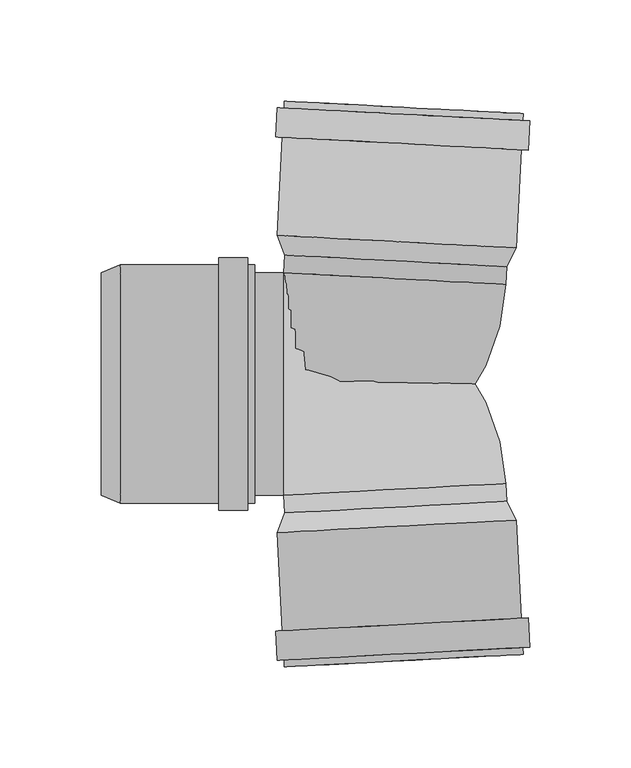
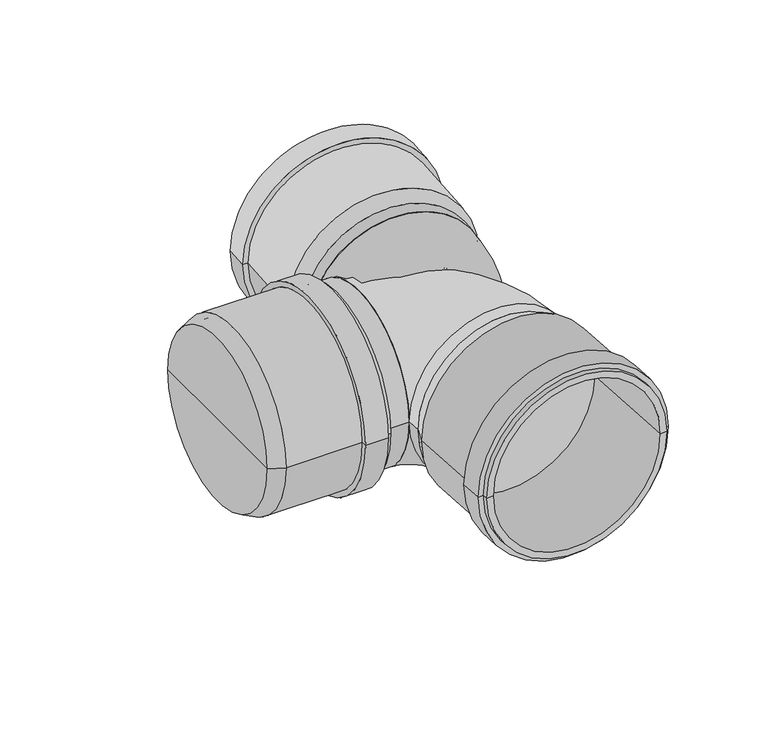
"""IFC4 building model written with IfcOpenShell, lengths in millimetres: pipe fitting geometry, pf_HTDB : pf_HTDB."""

from ifc_helpers import new_model, si_unit, point, frame, origin, origin_2d, place, context, project, spatial, polyline, circle_curve, ellipse_curve, trimmed, segment, composite_curve, outline, extrude, source, transform, mapped, element, save
from ifc_brep_helpers import plane_surface, cylinder_surface, revolved_surface, advanced_brep


def pipe_fitting_c43976f1(model_context):
    return source(origin(), model_context, "Body", "SolidModel", [
        advanced_brep(
        [(58.1171177, -58.037924, 0.0), (62.7086904, -67.3103272, 0.0), (-55.3293206, -73.4964372, 0.0), (-51.7321311, -63.7948792, 0.0), (3.1924933, -60.9164016, 0.0), (66.1890315, -133.7191912, 0.0), (62.0946504, -133.9337687, 0.0), (-47.7545984, -139.6907239, 0.0), (-51.8489795, -139.9053013, 0.0), (66.0110893, -130.3238508, 0.0), (-52.0269217, -136.5099609, 0.0), (69.4064297, -130.1459086, 0.0), (-55.4222622, -136.6879031, 0.0), (68.6475583, -115.6657803, 0.0), (-56.1811335, -122.2077749, 0.0), (65.2522179, -115.8437226, 0.0), (-52.7857931, -122.0298326, 0.0), (58.6143093, -67.5249046, 0.0), (3.6896849, -70.4033822, 0.0), (-51.2349395, -73.2818598, 0.0)],
        [
            (0, 1),
            (1, 2, circle_curve(frame((3.6896849, -70.4033822, 0.0), z_axis=(-0.05233595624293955, 0.9986295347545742, 0.0), x_axis=(-0.9986295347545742, -0.05233595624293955, 0.0)), 59.1)),
            (2, 3),
            (3, 0, circle_curve(frame((3.1924933, -60.9164016, 0.0), z_axis=(0.05233595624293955, -0.9986295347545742, 0.0), x_axis=(-0.9986295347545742, -0.05233595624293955, 0.0)), 55.0)),
            (2, 1, circle_curve(frame((3.6896849, -70.4033822, 0.0), z_axis=(-0.05233595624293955, 0.9986295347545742, 0.0), x_axis=(-0.9986295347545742, -0.05233595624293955, 0.0)), 59.1)),
            (0, 3, circle_curve(frame((3.1924933, -60.9164016, 0.0), z_axis=(0.05233595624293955, -0.9986295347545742, 0.0), x_axis=(-0.9986295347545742, -0.05233595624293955, 0.0)), 55.0)),
            (4, 0),
            (3, 4),
            (5, 6),
            (6, 7, circle_curve(frame((7.170026, -136.8122463, 0.0), z_axis=(-0.05233595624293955, 0.9986295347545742, 0.0), x_axis=(-0.9986295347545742, -0.05233595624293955, 0.0)), 55.0)),
            (7, 8),
            (8, 5, circle_curve(frame((7.170026, -136.8122463, 0.0), z_axis=(0.05233595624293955, -0.9986295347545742, 0.0), x_axis=(-0.9986295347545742, -0.05233595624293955, 0.0)), 59.1)),
            (7, 6, circle_curve(frame((7.170026, -136.8122463, 0.0), z_axis=(-0.05233595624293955, 0.9986295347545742, 0.0), x_axis=(-0.9986295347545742, -0.05233595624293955, 0.0)), 55.0)),
            (5, 8, circle_curve(frame((7.170026, -136.8122463, 0.0), z_axis=(0.05233595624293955, -0.9986295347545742, 0.0), x_axis=(-0.9986295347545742, -0.05233595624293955, 0.0)), 59.1)),
            (9, 5),
            (8, 10),
            (10, 9, circle_curve(frame((6.9920838, -133.4169058, 0.0), z_axis=(0.05233595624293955, -0.9986295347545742, 0.0), x_axis=(-0.9986295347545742, -0.05233595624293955, 0.0)), 59.1)),
            (9, 10, circle_curve(frame((6.9920838, -133.4169058, 0.0), z_axis=(0.05233595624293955, -0.9986295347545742, 0.0), x_axis=(-0.9986295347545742, -0.05233595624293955, 0.0)), 59.1)),
            (11, 9),
            (10, 12),
            (12, 11, circle_curve(frame((6.9920838, -133.4169058, 0.0), z_axis=(0.05233595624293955, -0.9986295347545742, 0.0), x_axis=(-0.9986295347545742, -0.05233595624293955, 0.0)), 62.5)),
            (11, 12, circle_curve(frame((6.9920838, -133.4169058, 0.0), z_axis=(0.05233595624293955, -0.9986295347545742, 0.0), x_axis=(-0.9986295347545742, -0.05233595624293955, 0.0)), 62.5)),
            (13, 11),
            (12, 14),
            (14, 13, circle_curve(frame((6.2332124, -118.9367776, 0.0), z_axis=(0.05233595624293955, -0.9986295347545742, 0.0), x_axis=(-0.9986295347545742, -0.05233595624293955, 0.0)), 62.5)),
            (13, 14, circle_curve(frame((6.2332124, -118.9367776, 0.0), z_axis=(0.05233595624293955, -0.9986295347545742, 0.0), x_axis=(-0.9986295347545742, -0.05233595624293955, 0.0)), 62.5)),
            (15, 13),
            (14, 16),
            (16, 15, circle_curve(frame((6.2332124, -118.9367776, 0.0), z_axis=(0.05233595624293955, -0.9986295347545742, 0.0), x_axis=(-0.9986295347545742, -0.05233595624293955, 0.0)), 59.1)),
            (15, 16, circle_curve(frame((6.2332124, -118.9367776, 0.0), z_axis=(0.05233595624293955, -0.9986295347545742, 0.0), x_axis=(-0.9986295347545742, -0.05233595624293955, 0.0)), 59.1)),
            (1, 15),
            (16, 2),
            (17, 18),
            (18, 19),
            (19, 17, circle_curve(frame((3.6896849, -70.4033822, 0.0), z_axis=(0.05233595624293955, -0.9986295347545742, 0.0), x_axis=(-0.9986295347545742, -0.05233595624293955, 0.0)), 55.0)),
            (17, 19, circle_curve(frame((3.6896849, -70.4033822, 0.0), z_axis=(0.05233595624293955, -0.9986295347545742, 0.0), x_axis=(-0.9986295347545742, -0.05233595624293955, 0.0)), 55.0)),
            (6, 17),
            (19, 7),
        ],
        [
            revolved_surface(polyline([(-55.3293206, -73.4964372, 0.0), (-51.7321311, -63.7948792, 0.0)]), (3.1924933, -60.9164016, 0.0), (-0.05233595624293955, 0.9986295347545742, 0.0)),
            plane_surface(frame((3.1924933, -60.9164016, 0.0), z_axis=(-0.05233595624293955, 0.9986295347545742, 0.0), x_axis=(-0.9986295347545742, -0.05233595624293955, 0.0))),
            plane_surface(frame((7.170026, -136.8122463, 0.0), z_axis=(0.05233595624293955, -0.9986295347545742, 0.0), x_axis=(-0.9986295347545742, -0.05233595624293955, 0.0))),
            cylinder_surface(frame((3.1924933, -60.9164016, 0.0), z_axis=(-0.05233595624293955, 0.9986295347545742, 0.0), x_axis=(-0.9986295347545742, -0.05233595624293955, 0.0)), 59.1),
            plane_surface(frame((6.9920838, -133.4169058, 0.0), z_axis=(0.05233595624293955, -0.9986295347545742, 0.0), x_axis=(-0.9986295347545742, -0.05233595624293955, 0.0))),
            cylinder_surface(frame((3.1924933, -60.9164016, 0.0), z_axis=(-0.05233595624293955, 0.9986295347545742, 0.0), x_axis=(-0.9986295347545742, -0.05233595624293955, 0.0)), 62.5),
            plane_surface(frame((6.2332124, -118.9367776, 0.0), z_axis=(-0.05233595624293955, 0.9986295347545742, 0.0), x_axis=(-0.9986295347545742, -0.05233595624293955, 0.0))),
            plane_surface(frame((3.6896849, -70.4033822, 0.0), z_axis=(0.05233595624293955, -0.9986295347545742, 0.0), x_axis=(-0.9986295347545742, -0.05233595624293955, 0.0))),
            revolved_surface(polyline([(-51.234939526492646, -73.28185978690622, 0.0), (-47.75459843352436, -139.69072390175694, 0.0)]), (3.1924933, -60.9164016, 0.0), (-0.05233595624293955, 0.9986295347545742, 0.0)),
        ],
        [
            (0, [[1, 2, 3, 4]]),
            (0, [[-3, 5, -1, 6]]),
            (1, [[7, -4, 8]]),
            (1, [[-8, -6, -7]]),
            (2, [[9, 10, 11, 12]]),
            (2, [[-11, 13, -9, 14]]),
            (3, [[15, -12, 16, 17]]),
            (3, [[-16, -14, -15, 18]]),
            (4, [[19, -17, 20, 21]]),
            (4, [[-20, -18, -19, 22]]),
            (5, [[23, -21, 24, 25]]),
            (5, [[-24, -22, -23, 26]]),
            (6, [[27, -25, 28, 29]]),
            (6, [[-28, -26, -27, 30]]),
            (3, [[31, -29, 32, -2]]),
            (3, [[-32, -30, -31, -5]]),
            (7, [[33, 34, 35]]),
            (7, [[-34, -33, 36]]),
            (8, [[37, -35, 38, -10]]),
            (8, [[-38, -36, -37, -13]]),
        ],
    ),
        advanced_brep(
        [(58.1171177, 58.037924, 0.0), (-51.7321311, 63.7948792, 0.0), (-55.3293206, 73.4964372, 0.0), (62.7086904, 67.3103272, 0.0), (3.1924933, 60.9164016, 0.0), (66.1890315, 133.7191912, 0.0), (-51.8489795, 139.9053013, 0.0), (-47.7545984, 139.6907239, 0.0), (62.0946504, 133.9337687, 0.0), (66.0110893, 130.3238508, 0.0), (-52.0269217, 136.5099609, 0.0), (69.4064297, 130.1459086, 0.0), (-55.4222622, 136.6879031, 0.0), (68.6475583, 115.6657803, 0.0), (-56.1811335, 122.2077749, 0.0), (65.2522179, 115.8437226, 0.0), (-52.7857931, 122.0298326, 0.0), (58.6143093, 67.5249046, 0.0), (-51.2349395, 73.2818598, 0.0), (3.6896849, 70.4033822, 0.0)],
        [
            (0, 1, circle_curve(frame((3.1924933, 60.9164016, 0.0), z_axis=(0.05233595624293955, 0.9986295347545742, 0.0), x_axis=(-0.9986295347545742, 0.05233595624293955, 0.0)), 55.0)),
            (1, 2),
            (2, 3, circle_curve(frame((3.6896849, 70.4033822, 0.0), z_axis=(-0.05233595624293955, -0.9986295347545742, 0.0), x_axis=(-0.9986295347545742, 0.05233595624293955, 0.0)), 59.1)),
            (3, 0),
            (1, 0, circle_curve(frame((3.1924933, 60.9164016, 0.0), z_axis=(0.05233595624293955, 0.9986295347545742, 0.0), x_axis=(-0.9986295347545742, 0.05233595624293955, 0.0)), 55.0)),
            (3, 2, circle_curve(frame((3.6896849, 70.4033822, 0.0), z_axis=(-0.05233595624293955, -0.9986295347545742, 0.0), x_axis=(-0.9986295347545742, 0.05233595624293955, 0.0)), 59.1)),
            (4, 1),
            (0, 4),
            (5, 6, circle_curve(frame((7.170026, 136.8122463, 0.0), z_axis=(0.05233595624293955, 0.9986295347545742, 0.0), x_axis=(-0.9986295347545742, 0.05233595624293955, 0.0)), 59.1)),
            (6, 7),
            (7, 8, circle_curve(frame((7.170026, 136.8122463, 0.0), z_axis=(-0.05233595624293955, -0.9986295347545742, 0.0), x_axis=(-0.9986295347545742, 0.05233595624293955, 0.0)), 55.0)),
            (8, 5),
            (6, 5, circle_curve(frame((7.170026, 136.8122463, 0.0), z_axis=(0.05233595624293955, 0.9986295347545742, 0.0), x_axis=(-0.9986295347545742, 0.05233595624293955, 0.0)), 59.1)),
            (8, 7, circle_curve(frame((7.170026, 136.8122463, 0.0), z_axis=(-0.05233595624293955, -0.9986295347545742, 0.0), x_axis=(-0.9986295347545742, 0.05233595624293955, 0.0)), 55.0)),
            (9, 10, circle_curve(frame((6.9920838, 133.4169058, 0.0), z_axis=(0.05233595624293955, 0.9986295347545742, 0.0), x_axis=(-0.9986295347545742, 0.05233595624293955, 0.0)), 59.1)),
            (10, 6),
            (5, 9),
            (10, 9, circle_curve(frame((6.9920838, 133.4169058, 0.0), z_axis=(0.05233595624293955, 0.9986295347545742, 0.0), x_axis=(-0.9986295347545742, 0.05233595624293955, 0.0)), 59.1)),
            (11, 12, circle_curve(frame((6.9920838, 133.4169058, 0.0), z_axis=(0.05233595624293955, 0.9986295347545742, 0.0), x_axis=(-0.9986295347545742, 0.05233595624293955, 0.0)), 62.5)),
            (12, 10),
            (9, 11),
            (12, 11, circle_curve(frame((6.9920838, 133.4169058, 0.0), z_axis=(0.05233595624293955, 0.9986295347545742, 0.0), x_axis=(-0.9986295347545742, 0.05233595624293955, 0.0)), 62.5)),
            (13, 14, circle_curve(frame((6.2332124, 118.9367776, 0.0), z_axis=(0.05233595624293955, 0.9986295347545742, 0.0), x_axis=(-0.9986295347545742, 0.05233595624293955, 0.0)), 62.5)),
            (14, 12),
            (11, 13),
            (14, 13, circle_curve(frame((6.2332124, 118.9367776, 0.0), z_axis=(0.05233595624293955, 0.9986295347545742, 0.0), x_axis=(-0.9986295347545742, 0.05233595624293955, 0.0)), 62.5)),
            (15, 16, circle_curve(frame((6.2332124, 118.9367776, 0.0), z_axis=(0.05233595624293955, 0.9986295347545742, 0.0), x_axis=(-0.9986295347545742, 0.05233595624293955, 0.0)), 59.1)),
            (16, 14),
            (13, 15),
            (16, 15, circle_curve(frame((6.2332124, 118.9367776, 0.0), z_axis=(0.05233595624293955, 0.9986295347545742, 0.0), x_axis=(-0.9986295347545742, 0.05233595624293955, 0.0)), 59.1)),
            (2, 16),
            (15, 3),
            (17, 18, circle_curve(frame((3.6896849, 70.4033822, 0.0), z_axis=(0.05233595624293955, 0.9986295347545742, 0.0), x_axis=(-0.9986295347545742, 0.05233595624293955, 0.0)), 55.0)),
            (18, 19),
            (19, 17),
            (18, 17, circle_curve(frame((3.6896849, 70.4033822, 0.0), z_axis=(0.05233595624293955, 0.9986295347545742, 0.0), x_axis=(-0.9986295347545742, 0.05233595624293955, 0.0)), 55.0)),
            (7, 18),
            (17, 8),
        ],
        [
            revolved_surface(polyline([(-55.3293206, 73.4964372, 0.0), (-51.7321311, 63.7948792, 0.0)]), (3.1924933, 60.9164016, 0.0), (-0.05233595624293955, -0.9986295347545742, 0.0)),
            plane_surface(frame((3.1924933, 60.9164016, 0.0), z_axis=(-0.05233595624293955, -0.9986295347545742, 0.0), x_axis=(-0.9986295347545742, 0.05233595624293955, 0.0))),
            plane_surface(frame((7.170026, 136.8122463, 0.0), z_axis=(0.05233595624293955, 0.9986295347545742, 0.0), x_axis=(-0.9986295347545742, 0.05233595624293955, 0.0))),
            cylinder_surface(frame((3.1924933, 60.9164016, 0.0), z_axis=(-0.05233595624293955, -0.9986295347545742, 0.0), x_axis=(-0.9986295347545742, 0.05233595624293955, 0.0)), 59.1),
            plane_surface(frame((6.9920838, 133.4169058, 0.0), z_axis=(0.05233595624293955, 0.9986295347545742, 0.0), x_axis=(-0.9986295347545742, 0.05233595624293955, 0.0))),
            cylinder_surface(frame((3.1924933, 60.9164016, 0.0), z_axis=(-0.05233595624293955, -0.9986295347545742, 0.0), x_axis=(-0.9986295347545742, 0.05233595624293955, 0.0)), 62.5),
            plane_surface(frame((6.2332124, 118.9367776, 0.0), z_axis=(-0.05233595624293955, -0.9986295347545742, 0.0), x_axis=(-0.9986295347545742, 0.05233595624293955, 0.0))),
            plane_surface(frame((3.6896849, 70.4033822, 0.0), z_axis=(0.05233595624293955, 0.9986295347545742, 0.0), x_axis=(-0.9986295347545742, 0.05233595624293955, 0.0))),
            revolved_surface(polyline([(-51.234939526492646, 73.28185978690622, 0.0), (-47.75459843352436, 139.69072390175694, 0.0)]), (3.1924933, 60.9164016, 0.0), (-0.05233595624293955, -0.9986295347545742, 0.0)),
        ],
        [
            (0, [[1, 2, 3, 4]]),
            (0, [[5, -4, 6, -2]]),
            (1, [[7, -1, 8]]),
            (1, [[-8, -5, -7]]),
            (2, [[9, 10, 11, 12]]),
            (2, [[13, -12, 14, -10]]),
            (3, [[15, 16, -9, 17]]),
            (3, [[18, -17, -13, -16]]),
            (4, [[19, 20, -15, 21]]),
            (4, [[22, -21, -18, -20]]),
            (5, [[23, 24, -19, 25]]),
            (5, [[26, -25, -22, -24]]),
            (6, [[27, 28, -23, 29]]),
            (6, [[30, -29, -26, -28]]),
            (3, [[-3, 31, -27, 32]]),
            (3, [[-6, -32, -30, -31]]),
            (7, [[33, 34, 35]]),
            (7, [[36, -35, -34]]),
            (8, [[-11, 37, -33, 38]]),
            (8, [[-14, -38, -36, -37]]),
        ],
    ),
        advanced_brep(
        [(-142.5, -55.0, 0.0), (-142.5, 55.0, 0.0), (-133.0, 59.1, 0.0), (-133.0, -59.1, 0.0), (-142.5, 0.0, 0.0), (-66.5, -59.1, 0.0), (-66.5, 59.1, 0.0), (-66.5, 55.0, 0.0), (-66.5, -55.0, 0.0), (-69.9, -59.1, 0.0), (-69.9, 59.1, 0.0), (-69.9, -62.5, 0.0), (-69.9, 62.5, 0.0), (-84.4, -62.5, 0.0), (-84.4, 62.5, 0.0), (-84.4, -59.1, 0.0), (-84.4, 59.1, 0.0), (-133.0, -55.0, 0.0), (-133.0, 55.0, 0.0), (-133.0, 0.0, 0.0)],
        [
            (0, 1, circle_curve(frame((-142.5, 0.0, 0.0), z_axis=(1.0, 0.0, 0.0), x_axis=(0.0, 1.0, 0.0)), 55.0)),
            (1, 2),
            (2, 3, circle_curve(frame((-133.0, 0.0, 0.0), z_axis=(-1.0, 0.0, 0.0), x_axis=(0.0, 1.0, 0.0)), 59.1)),
            (3, 0),
            (1, 0, circle_curve(frame((-142.5, 0.0, 0.0), z_axis=(1.0, 0.0, 0.0), x_axis=(0.0, 1.0, 0.0)), 55.0)),
            (3, 2, circle_curve(frame((-133.0, 0.0, 0.0), z_axis=(-1.0, 0.0, 0.0), x_axis=(0.0, 1.0, 0.0)), 59.1)),
            (4, 1),
            (0, 4),
            (5, 6, circle_curve(frame((-66.5, 0.0, 0.0), z_axis=(1.0, 0.0, 0.0), x_axis=(0.0, 1.0, 0.0)), 59.1)),
            (6, 7),
            (7, 8, circle_curve(frame((-66.5, 0.0, 0.0), z_axis=(-1.0, 0.0, 0.0), x_axis=(0.0, 1.0, 0.0)), 55.0)),
            (8, 5),
            (6, 5, circle_curve(frame((-66.5, 0.0, 0.0), z_axis=(1.0, 0.0, 0.0), x_axis=(0.0, 1.0, 0.0)), 59.1)),
            (8, 7, circle_curve(frame((-66.5, 0.0, 0.0), z_axis=(-1.0, 0.0, 0.0), x_axis=(0.0, 1.0, 0.0)), 55.0)),
            (9, 10, circle_curve(frame((-69.9, 0.0, 0.0), z_axis=(1.0, 0.0, 0.0), x_axis=(0.0, 1.0, 0.0)), 59.1)),
            (10, 6),
            (5, 9),
            (10, 9, circle_curve(frame((-69.9, 0.0, 0.0), z_axis=(1.0, 0.0, 0.0), x_axis=(0.0, 1.0, 0.0)), 59.1)),
            (11, 12, circle_curve(frame((-69.9, 0.0, 0.0), z_axis=(1.0, 0.0, 0.0), x_axis=(0.0, 1.0, 0.0)), 62.5)),
            (12, 10),
            (9, 11),
            (12, 11, circle_curve(frame((-69.9, 0.0, 0.0), z_axis=(1.0, 0.0, 0.0), x_axis=(0.0, 1.0, 0.0)), 62.5)),
            (13, 14, circle_curve(frame((-84.4, 0.0, 0.0), z_axis=(1.0, 0.0, 0.0), x_axis=(0.0, 1.0, 0.0)), 62.5)),
            (14, 12),
            (11, 13),
            (14, 13, circle_curve(frame((-84.4, 0.0, 0.0), z_axis=(1.0, 0.0, 0.0), x_axis=(0.0, 1.0, 0.0)), 62.5)),
            (15, 16, circle_curve(frame((-84.4, 0.0, 0.0), z_axis=(1.0, 0.0, 0.0), x_axis=(0.0, 1.0, 0.0)), 59.1)),
            (16, 14),
            (13, 15),
            (16, 15, circle_curve(frame((-84.4, 0.0, 0.0), z_axis=(1.0, 0.0, 0.0), x_axis=(0.0, 1.0, 0.0)), 59.1)),
            (2, 16),
            (15, 3),
            (17, 18, circle_curve(frame((-133.0, 0.0, 0.0), z_axis=(1.0, 0.0, 0.0), x_axis=(0.0, 1.0, 0.0)), 55.0)),
            (18, 19),
            (19, 17),
            (18, 17, circle_curve(frame((-133.0, 0.0, 0.0), z_axis=(1.0, 0.0, 0.0), x_axis=(0.0, 1.0, 0.0)), 55.0)),
            (7, 18),
            (17, 8),
        ],
        [
            revolved_surface(polyline([(-133.0, 59.1, 0.0), (-142.5, 55.0, 0.0)]), (-142.5, 0.0, 0.0), (-1.0, 0.0, 0.0)),
            plane_surface(frame((-142.5, 0.0, 0.0), z_axis=(-1.0, 0.0, 0.0), x_axis=(0.0, 1.0, 0.0))),
            plane_surface(frame((-66.5, 0.0, 0.0), z_axis=(1.0, 0.0, 0.0), x_axis=(0.0, 1.0, 0.0))),
            cylinder_surface(frame((-142.5, 0.0, 0.0), z_axis=(-1.0, 0.0, 0.0), x_axis=(0.0, 1.0, 0.0)), 59.1),
            plane_surface(frame((-69.9, 0.0, 0.0), z_axis=(1.0, 0.0, 0.0), x_axis=(0.0, 1.0, 0.0))),
            cylinder_surface(frame((-142.5, 0.0, 0.0), z_axis=(-1.0, 0.0, 0.0), x_axis=(0.0, 1.0, 0.0)), 62.5),
            plane_surface(frame((-84.4, 0.0, 0.0), z_axis=(-1.0, 0.0, 0.0), x_axis=(0.0, 1.0, 0.0))),
            plane_surface(frame((-133.0, 0.0, 0.0), z_axis=(1.0, 0.0, 0.0), x_axis=(0.0, 1.0, 0.0))),
            revolved_surface(polyline([(-133.0, 55.0, 0.0), (-66.5, 55.0, 0.0)]), (-142.5, 0.0, 0.0), (-1.0, 0.0, 0.0)),
        ],
        [
            (0, [[1, 2, 3, 4]]),
            (0, [[5, -4, 6, -2]]),
            (1, [[7, -1, 8]]),
            (1, [[-8, -5, -7]]),
            (2, [[9, 10, 11, 12]]),
            (2, [[13, -12, 14, -10]]),
            (3, [[15, 16, -9, 17]]),
            (3, [[18, -17, -13, -16]]),
            (4, [[19, 20, -15, 21]]),
            (4, [[22, -21, -18, -20]]),
            (5, [[23, 24, -19, 25]]),
            (5, [[26, -25, -22, -24]]),
            (6, [[27, 28, -23, 29]]),
            (6, [[30, -29, -26, -28]]),
            (3, [[-3, 31, -27, 32]]),
            (3, [[-6, -32, -30, -31]]),
            (7, [[33, 34, 35]]),
            (7, [[36, -35, -34]]),
            (8, [[-11, 37, -33, 38]]),
            (8, [[-14, -38, -36, -37]]),
        ],
    ),
        extrude(outline(composite_curve([segment(trimmed(circle_curve(origin_2d(), 55.0), [point((0.0, 55.0))], [point((0.0, -55.0))], False, "CARTESIAN"), True, "CONTINUOUS"), segment(trimmed(circle_curve(origin_2d(), 55.0), [point((0.0, -55.0))], [point((0.0, 55.0))], False, "CARTESIAN"), True, "CONTINUOUS")], self_intersect=False)), frame((3.1924933, -60.9164016, 0.0), z_axis=(-0.05233595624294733, 0.9986295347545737, 0.0), x_axis=(0.0, 0.0, 1.0)), (0.0, 0.0, 1.0), 8.8069488),
        advanced_brep(
        [(57.6561977, -49.2430448, 0.0), (-52.1930512, -55.0, 0.0), (-52.1930512, 55.0, 0.0)],
        [
            (0, 1, circle_curve(frame((2.7315732, -52.1215224, 0.0), z_axis=(0.052335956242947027, -0.9986295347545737, 0.0), x_axis=(-0.9986295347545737, -0.052335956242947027, 0.0)), 55.0)),
            (1, 0, circle_curve(frame((2.7315732, -52.1215224, 0.0), z_axis=(0.052335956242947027, -0.9986295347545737, 0.0), x_axis=(-0.9986295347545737, -0.052335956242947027, 0.0)), 55.0)),
            (2, 1, circle_curve(frame((-52.1930512, 0.0, 0.0), z_axis=(-1.0, 0.0, 0.0), x_axis=(0.0, -1.0, 0.0)), 55.0)),
            (1, 2, circle_curve(frame((-52.1930512, 0.0, 0.0), z_axis=(-1.0, 0.0, 0.0), x_axis=(0.0, -1.0, 0.0)), 55.0)),
            (2, 0, circle_curve(frame((-52.1930512, -55.0, 0.0), z_axis=(0.0, 0.0, -1.0), x_axis=(0.9986295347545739, 0.05233595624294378, 0.0)), 110.0)),
        ],
        [
            plane_surface(frame((-52.1930512, -55.0, -14.8), z_axis=(0.05233595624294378, -0.9986295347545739, 0.0), x_axis=(0.9986295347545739, 0.05233595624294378, 0.0))),
            plane_surface(frame((-52.1930512, -55.0, -14.8), z_axis=(-1.0, 0.0, 0.0), x_axis=(0.0, 1.0, 0.0))),
            revolved_surface(trimmed(ellipse_curve(frame((2.7315732, -52.1215224, 0.0), z_axis=(0.052335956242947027, -0.9986295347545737, 0.0), x_axis=(-0.9986295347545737, -0.052335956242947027, 0.0)), 55.0, 55.0), [point((-52.1930512, -55.0, 0.0))], [point((57.6561977, -49.2430448, 0.0))], True, "CARTESIAN"), (-52.1930512, -55.0, -14.8), (0.0, 0.0, 1.0)),
            revolved_surface(trimmed(ellipse_curve(frame((2.7315732, -52.1215224, 0.0), z_axis=(0.052335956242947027, -0.9986295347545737, 0.0), x_axis=(-0.9986295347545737, -0.052335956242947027, 0.0)), 55.0, 55.0), [point((57.6561977, -49.2430448, 0.0))], [point((-52.1930512, -55.0, 0.0))], True, "CARTESIAN"), (-52.1930512, -55.0, -14.8), (0.0, 0.0, 1.0)),
        ],
        [
            (0, [[1, 2]]),
            (1, [[3, 4]]),
            (2, [[5, -2, -3]]),
            (3, [[-1, -5, -4]]),
        ],
    ),
        extrude(outline(composite_curve([segment(trimmed(circle_curve(origin_2d(), 55.0), [point((0.0, -55.0))], [point((0.0, 55.0000001))], False, "CARTESIAN"), True, "CONTINUOUS"), segment(trimmed(circle_curve(origin_2d(), 55.0), [point((0.0, 55.0000001))], [point((0.0, -55.0))], False, "CARTESIAN"), True, "CONTINUOUS")], self_intersect=False)), frame((2.7315732, 52.1215224, 0.0), z_axis=(0.052335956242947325, 0.9986295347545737, 0.0), x_axis=(0.0, 0.0, 1.0)), (0.0, 0.0, 1.0), 8.8069488),
        extrude(outline(composite_curve([segment(trimmed(circle_curve(origin_2d(), 55.0), [point((-55.0, 0.0))], [point((55.0, 0.0))], False, "CARTESIAN"), True, "CONTINUOUS"), segment(trimmed(circle_curve(origin_2d(), 55.0), [point((55.0, 0.0))], [point((-55.0, 0.0))], False, "CARTESIAN"), True, "CONTINUOUS")], self_intersect=False)), frame((-66.5, 0.0, 0.0), z_axis=(1.0, 0.0, 0.0), x_axis=(0.0, 1.0, 0.0)), (0.0, 0.0, 1.0), 14.3069488),
        advanced_brep(
        [(57.6561977, 49.2430448, 0.0), (-52.1930512, 55.0, 0.0), (-52.1930512, -55.0, 0.0)],
        [
            (0, 1, circle_curve(frame((2.7315732, 52.1215224, 0.0), z_axis=(0.052335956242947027, 0.9986295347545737, 0.0), x_axis=(-0.9986295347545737, 0.052335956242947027, 0.0)), 55.0)),
            (1, 0, circle_curve(frame((2.7315732, 52.1215224, 0.0), z_axis=(0.052335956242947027, 0.9986295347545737, 0.0), x_axis=(-0.9986295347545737, 0.052335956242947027, 0.0)), 55.0)),
            (2, 1, circle_curve(frame((-52.1930512, 0.0, 0.0), z_axis=(-1.0, 0.0, 0.0), x_axis=(0.0, 1.0, 0.0)), 55.0)),
            (1, 2, circle_curve(frame((-52.1930512, 0.0, 0.0), z_axis=(-1.0, 0.0, 0.0), x_axis=(0.0, 1.0, 0.0)), 55.0)),
            (0, 2, circle_curve(frame((-52.1930512, 55.0, 0.0), z_axis=(0.0, 0.0, -1.0), x_axis=(0.9986295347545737, -0.052335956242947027, 0.0)), 110.0)),
        ],
        [
            plane_surface(frame((-52.1930512, 55.0, -14.8), z_axis=(0.052335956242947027, 0.9986295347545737, 0.0), x_axis=(0.9986295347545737, -0.052335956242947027, 0.0))),
            plane_surface(frame((-52.1930512, 55.0, -14.8), z_axis=(-1.0, 0.0, 0.0), x_axis=(0.0, -1.0, 0.0))),
            revolved_surface(trimmed(ellipse_curve(frame((2.7315732, 52.1215224, 0.0), z_axis=(0.052335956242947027, 0.9986295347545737, 0.0), x_axis=(-0.9986295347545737, 0.052335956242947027, 0.0)), 55.0, 55.0), [point((57.6561977, 49.2430448, 0.0))], [point((-52.1930512, 55.0, 0.0))], True, "CARTESIAN"), (-52.1930512, 55.0, -14.8), (0.0, 0.0, -1.0)),
            revolved_surface(trimmed(ellipse_curve(frame((2.7315732, 52.1215224, 0.0), z_axis=(0.052335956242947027, 0.9986295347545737, 0.0), x_axis=(-0.9986295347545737, 0.052335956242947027, 0.0)), 55.0, 55.0), [point((-52.1930512, 55.0, 0.0))], [point((57.6561977, 49.2430448, 0.0))], True, "CARTESIAN"), (-52.1930512, 55.0, -14.8), (0.0, 0.0, -1.0)),
        ],
        [
            (0, [[1, 2]]),
            (1, [[3, 4]]),
            (2, [[-1, 5, -4]]),
            (3, [[-5, -2, -3]]),
        ],
    ),
    ])


if __name__ == "__main__":
    model = new_model("IFC4")
    model_context = context("Model", 3, world=origin())
    ifc_project = project(units=[si_unit("LENGTHUNIT", "METRE", prefix="MILLI")], contexts=[model_context])
    site = spatial("IfcSite", under=ifc_project)
    building = spatial("IfcBuilding", under=site)
    placement = place(None, origin())
    pipe_fitting_shape = pipe_fitting_c43976f1(model_context)
    element("IfcPipeFitting", 1, ObjectType="pf_HTDB : pf_HTDB", at=placement, inside=building, context=model_context, shape_type="MappedRepresentation", body=[
        mapped(pipe_fitting_shape, transform((0.0, 0.0, 0.0), x_axis=(1.0, 0.0, 0.0), y_axis=(0.0, 1.0, 0.0), z_axis=(0.0, 0.0, 1.0))),
    ])
    save(model, "model.ifc")
